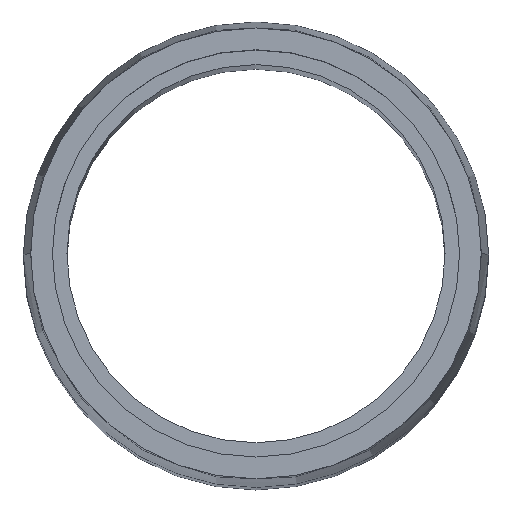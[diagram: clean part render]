
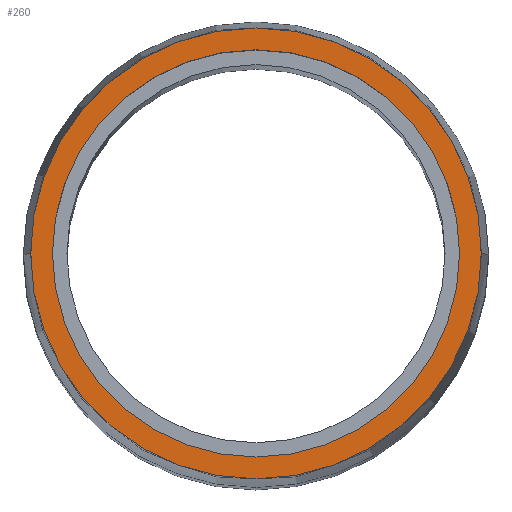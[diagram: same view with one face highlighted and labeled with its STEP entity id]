
A CAD part, top view. The second image highlights one B-rep face of the part: STEP entity #260.
In plain terms, the highlighted planar face has unit normal (0, 0, 1).
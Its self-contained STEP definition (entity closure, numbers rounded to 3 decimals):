
#5 = DIRECTION ( 'NONE',  ( 1., 0., 0. ) ) ;
#43 = CIRCLE ( 'NONE', #89, 15.5 ) ;
#45 = ORIENTED_EDGE ( 'NONE', *, *, #78, .F. ) ;
#46 = EDGE_CURVE ( 'NONE', #133, #61, #340, .T. ) ;
#50 = DIRECTION ( 'NONE',  ( 1., 0., 0. ) ) ;
#61 = VERTEX_POINT ( 'NONE', #390 ) ;
#68 = EDGE_LOOP ( 'NONE', ( #45, #452 ) ) ;
#71 = FACE_BOUND ( 'NONE', #68, .T. ) ;
#78 = EDGE_CURVE ( 'NONE', #434, #125, #361, .T. ) ;
#83 = DIRECTION ( 'NONE',  ( 1., 0., 0. ) ) ;
#89 = AXIS2_PLACEMENT_3D ( 'NONE', #384, #119, #83 ) ;
#96 = EDGE_LOOP ( 'NONE', ( #299, #401 ) ) ;
#97 = CARTESIAN_POINT ( 'NONE',  ( 14., 0., 102.5 ) ) ;
#108 = AXIS2_PLACEMENT_3D ( 'NONE', #282, #256, #410 ) ;
#119 = DIRECTION ( 'NONE',  ( 0., 0., 1. ) ) ;
#125 = VERTEX_POINT ( 'NONE', #212 ) ;
#133 = VERTEX_POINT ( 'NONE', #373 ) ;
#153 = EDGE_CURVE ( 'NONE', #61, #133, #43, .T. ) ;
#191 = DIRECTION ( 'NONE',  ( 0., 0., 1. ) ) ;
#212 = CARTESIAN_POINT ( 'NONE',  ( -14., 0., 102.5 ) ) ;
#230 = PLANE ( 'NONE',  #364 ) ;
#234 = AXIS2_PLACEMENT_3D ( 'NONE', #387, #347, #350 ) ;
#237 = EDGE_CURVE ( 'NONE', #125, #434, #238, .T. ) ;
#238 = CIRCLE ( 'NONE', #295, 14. ) ;
#256 = DIRECTION ( 'NONE',  ( 0., 0., 1. ) ) ;
#260 = ADVANCED_FACE ( 'NONE', ( #71, #368 ), #230, .T. ) ;
#264 = CARTESIAN_POINT ( 'NONE',  ( 0., 0., 102.5 ) ) ;
#267 = CARTESIAN_POINT ( 'NONE',  ( 0., 0., 102.5 ) ) ;
#282 = CARTESIAN_POINT ( 'NONE',  ( 0., 0., 102.5 ) ) ;
#295 = AXIS2_PLACEMENT_3D ( 'NONE', #267, #191, #50 ) ;
#299 = ORIENTED_EDGE ( 'NONE', *, *, #153, .T. ) ;
#340 = CIRCLE ( 'NONE', #234, 15.5 ) ;
#347 = DIRECTION ( 'NONE',  ( 0., 0., 1. ) ) ;
#350 = DIRECTION ( 'NONE',  ( 1., 0., 0. ) ) ;
#361 = CIRCLE ( 'NONE', #108, 14. ) ;
#364 = AXIS2_PLACEMENT_3D ( 'NONE', #264, #381, #5 ) ;
#368 = FACE_OUTER_BOUND ( 'NONE', #96, .T. ) ;
#373 = CARTESIAN_POINT ( 'NONE',  ( 15.5, 0., 102.5 ) ) ;
#381 = DIRECTION ( 'NONE',  ( 0., 0., 1. ) ) ;
#384 = CARTESIAN_POINT ( 'NONE',  ( 0., 0., 102.5 ) ) ;
#387 = CARTESIAN_POINT ( 'NONE',  ( 0., 0., 102.5 ) ) ;
#390 = CARTESIAN_POINT ( 'NONE',  ( -15.5, 0., 102.5 ) ) ;
#401 = ORIENTED_EDGE ( 'NONE', *, *, #46, .T. ) ;
#410 = DIRECTION ( 'NONE',  ( 1., 0., 0. ) ) ;
#434 = VERTEX_POINT ( 'NONE', #97 ) ;
#452 = ORIENTED_EDGE ( 'NONE', *, *, #237, .F. ) ;
